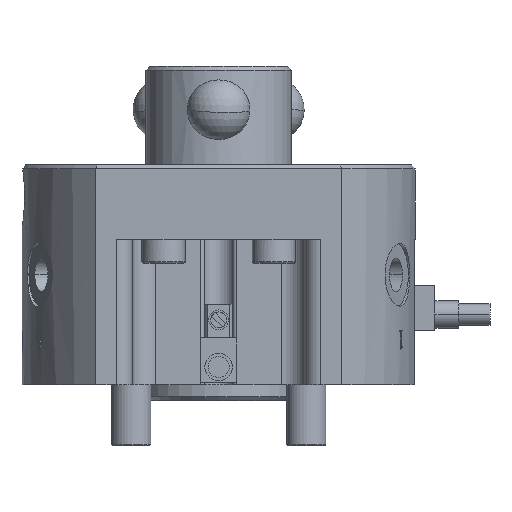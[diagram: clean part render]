
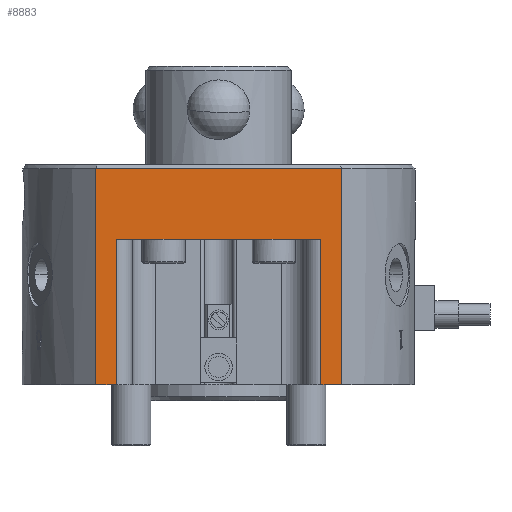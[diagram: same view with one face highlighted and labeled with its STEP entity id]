
A CAD part, front view. The second image highlights one B-rep face of the part: STEP entity #8883.
In plain terms, the highlighted planar face has unit normal (0, -1, 0).
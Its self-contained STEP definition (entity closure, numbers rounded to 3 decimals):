
#147 = PLANE ( 'NONE',  #15225 ) ;
#161 = EDGE_LOOP ( 'NONE', ( #28862, #17287, #18804, #11274, #42937, #583, #9067, #9050, #10070, #8653, #3820, #22414 ) ) ;
#240 = CARTESIAN_POINT ( 'NONE',  ( -55.89, -24.983, 8.575 ) ) ;
#583 = ORIENTED_EDGE ( 'NONE', *, *, #36011, .F. ) ;
#887 = VECTOR ( 'NONE', #26261, 1000. ) ;
#1728 = CARTESIAN_POINT ( 'NONE',  ( -34.744, -24.983, 8.575 ) ) ;
#1742 = LINE ( 'NONE', #3896, #15758 ) ;
#2471 = VERTEX_POINT ( 'NONE', #240 ) ;
#3316 = CARTESIAN_POINT ( 'NONE',  ( -37.036, -24.983, 8.575 ) ) ;
#3433 = CARTESIAN_POINT ( 'NONE',  ( -58.534, -24.983, 10.075 ) ) ;
#3820 = ORIENTED_EDGE ( 'NONE', *, *, #13858, .T. ) ;
#3896 = CARTESIAN_POINT ( 'NONE',  ( -27.245, -24.983, 10.075 ) ) ;
#4011 = CARTESIAN_POINT ( 'NONE',  ( -58.534, -24.983, 17.575 ) ) ;
#4137 = DIRECTION ( 'NONE',  ( -1., 0., 0. ) ) ;
#4466 = EDGE_CURVE ( 'NONE', #33218, #9489, #41276, .T. ) ;
#6421 = CARTESIAN_POINT ( 'NONE',  ( -48.744, -24.983, 8.575 ) ) ;
#6570 = DIRECTION ( 'NONE',  ( 1., 0., 0. ) ) ;
#6820 = DIRECTION ( 'NONE',  ( 0., 0., -1. ) ) ;
#7085 = DIRECTION ( 'NONE',  ( 1., 0., 0. ) ) ;
#7533 = VERTEX_POINT ( 'NONE', #27901 ) ;
#8642 = CARTESIAN_POINT ( 'NONE',  ( -53.89, -24.983, 8.575 ) ) ;
#8653 = ORIENTED_EDGE ( 'NONE', *, *, #16611, .F. ) ;
#8784 = DIRECTION ( 'NONE',  ( -1., 0., 0. ) ) ;
#8883 = ADVANCED_FACE ( 'NONE', ( #12126 ), #147, .T. ) ;
#9050 = ORIENTED_EDGE ( 'NONE', *, *, #22220, .F. ) ;
#9067 = ORIENTED_EDGE ( 'NONE', *, *, #28157, .F. ) ;
#9489 = VERTEX_POINT ( 'NONE', #3316 ) ;
#10070 = ORIENTED_EDGE ( 'NONE', *, *, #4466, .F. ) ;
#10085 = CARTESIAN_POINT ( 'NONE',  ( -29.89, -24.983, -9.925 ) ) ;
#10168 = DIRECTION ( 'NONE',  ( 0., -1., 0. ) ) ;
#10459 = LINE ( 'NONE', #8642, #26126 ) ;
#11274 = ORIENTED_EDGE ( 'NONE', *, *, #33935, .T. ) ;
#11808 = LINE ( 'NONE', #24110, #20700 ) ;
#11876 = VERTEX_POINT ( 'NONE', #4011 ) ;
#12126 = FACE_OUTER_BOUND ( 'NONE', #161, .T. ) ;
#12259 = LINE ( 'NONE', #10085, #27927 ) ;
#12996 = CARTESIAN_POINT ( 'NONE',  ( -27.245, -24.983, 17.575 ) ) ;
#13124 = VECTOR ( 'NONE', #20522, 1000. ) ;
#13196 = LINE ( 'NONE', #31125, #32562 ) ;
#13445 = CARTESIAN_POINT ( 'NONE',  ( -29.89, -24.983, -9.925 ) ) ;
#13695 = DIRECTION ( 'NONE',  ( 0., 0., 1. ) ) ;
#13858 = EDGE_CURVE ( 'NONE', #22449, #40415, #12259, .T. ) ;
#13886 = DIRECTION ( 'NONE',  ( -1., 0., 0. ) ) ;
#14539 = VERTEX_POINT ( 'NONE', #25623 ) ;
#15225 = AXIS2_PLACEMENT_3D ( 'NONE', #26812, #10168, #6820 ) ;
#15758 = VECTOR ( 'NONE', #37897, 1000. ) ;
#15779 = LINE ( 'NONE', #24017, #35614 ) ;
#16611 = EDGE_CURVE ( 'NONE', #22449, #33218, #11808, .T. ) ;
#16921 = EDGE_CURVE ( 'NONE', #14539, #2471, #17530, .T. ) ;
#17173 = CARTESIAN_POINT ( 'NONE',  ( -53.89, -24.983, 8.575 ) ) ;
#17287 = ORIENTED_EDGE ( 'NONE', *, *, #18339, .T. ) ;
#17530 = LINE ( 'NONE', #32683, #19603 ) ;
#17797 = VERTEX_POINT ( 'NONE', #37735 ) ;
#18339 = EDGE_CURVE ( 'NONE', #21973, #11876, #13196, .T. ) ;
#18454 = DIRECTION ( 'NONE',  ( -1., 0., 0. ) ) ;
#18804 = ORIENTED_EDGE ( 'NONE', *, *, #38833, .F. ) ;
#19603 = VECTOR ( 'NONE', #13695, 1000. ) ;
#19840 = CARTESIAN_POINT ( 'NONE',  ( -58.534, -24.983, -9.925 ) ) ;
#20522 = DIRECTION ( 'NONE',  ( -1., 0., 0. ) ) ;
#20700 = VECTOR ( 'NONE', #13886, 1000. ) ;
#20707 = CARTESIAN_POINT ( 'NONE',  ( -29.89, -24.983, 8.575 ) ) ;
#21973 = VERTEX_POINT ( 'NONE', #12996 ) ;
#22220 = EDGE_CURVE ( 'NONE', #9489, #34043, #10459, .T. ) ;
#22414 = ORIENTED_EDGE ( 'NONE', *, *, #41806, .T. ) ;
#22449 = VERTEX_POINT ( 'NONE', #20707 ) ;
#22460 = VECTOR ( 'NONE', #18454, 1000. ) ;
#22473 = VECTOR ( 'NONE', #6570, 1000. ) ;
#22699 = VERTEX_POINT ( 'NONE', #23445 ) ;
#23095 = DIRECTION ( 'NONE',  ( 0., 0., -1. ) ) ;
#23445 = CARTESIAN_POINT ( 'NONE',  ( -51.036, -24.983, 8.575 ) ) ;
#24017 = CARTESIAN_POINT ( 'NONE',  ( -58.534, -24.983, -9.925 ) ) ;
#24110 = CARTESIAN_POINT ( 'NONE',  ( -53.89, -24.983, 8.575 ) ) ;
#25623 = CARTESIAN_POINT ( 'NONE',  ( -55.89, -24.983, -9.925 ) ) ;
#26126 = VECTOR ( 'NONE', #8784, 1000. ) ;
#26261 = DIRECTION ( 'NONE',  ( 0., 0., 1. ) ) ;
#26812 = CARTESIAN_POINT ( 'NONE',  ( -58.534, -24.983, 10.075 ) ) ;
#27901 = CARTESIAN_POINT ( 'NONE',  ( -27.245, -24.983, -9.925 ) ) ;
#27927 = VECTOR ( 'NONE', #23095, 1000. ) ;
#28157 = EDGE_CURVE ( 'NONE', #34043, #22699, #38476, .T. ) ;
#28528 = VECTOR ( 'NONE', #4137, 1000. ) ;
#28664 = CARTESIAN_POINT ( 'NONE',  ( -53.89, -24.983, 8.575 ) ) ;
#28862 = ORIENTED_EDGE ( 'NONE', *, *, #33059, .T. ) ;
#30969 = CARTESIAN_POINT ( 'NONE',  ( -53.89, -24.983, 8.575 ) ) ;
#31125 = CARTESIAN_POINT ( 'NONE',  ( -58.534, -24.983, 17.575 ) ) ;
#31355 = LINE ( 'NONE', #19840, #22473 ) ;
#32562 = VECTOR ( 'NONE', #41045, 1000. ) ;
#32683 = CARTESIAN_POINT ( 'NONE',  ( -55.89, -24.983, 8.575 ) ) ;
#33059 = EDGE_CURVE ( 'NONE', #7533, #21973, #1742, .T. ) ;
#33218 = VERTEX_POINT ( 'NONE', #1728 ) ;
#33935 = EDGE_CURVE ( 'NONE', #17797, #14539, #31355, .T. ) ;
#34043 = VERTEX_POINT ( 'NONE', #6421 ) ;
#35614 = VECTOR ( 'NONE', #7085, 1000. ) ;
#36011 = EDGE_CURVE ( 'NONE', #22699, #2471, #37692, .T. ) ;
#37692 = LINE ( 'NONE', #17173, #13124 ) ;
#37735 = CARTESIAN_POINT ( 'NONE',  ( -58.534, -24.983, -9.925 ) ) ;
#37897 = DIRECTION ( 'NONE',  ( 0., 0., 1. ) ) ;
#38476 = LINE ( 'NONE', #30969, #28528 ) ;
#38833 = EDGE_CURVE ( 'NONE', #17797, #11876, #40513, .T. ) ;
#40415 = VERTEX_POINT ( 'NONE', #13445 ) ;
#40513 = LINE ( 'NONE', #3433, #887 ) ;
#41045 = DIRECTION ( 'NONE',  ( -1., 0., 0. ) ) ;
#41276 = LINE ( 'NONE', #28664, #22460 ) ;
#41806 = EDGE_CURVE ( 'NONE', #40415, #7533, #15779, .T. ) ;
#42937 = ORIENTED_EDGE ( 'NONE', *, *, #16921, .T. ) ;
